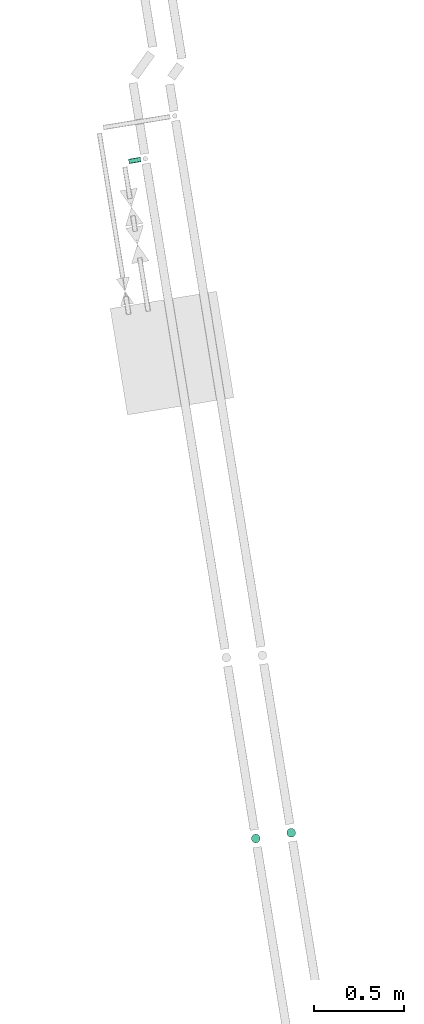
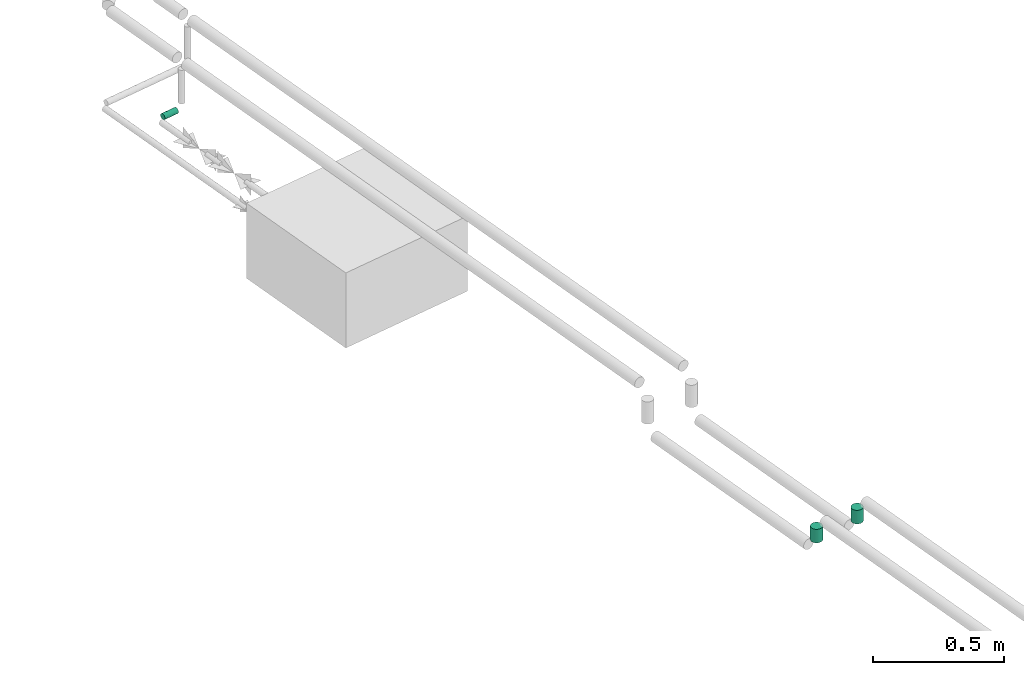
# One storey, part 7 of 10: 3 flow segments.
"""IFC2X3 building model written with IfcOpenShell, lengths in millimetres."""

from ifc_helpers import new_model, entity, si_unit, converted_unit, derived_unit, direction, frame, frame_2d, origin, origin_with_axes, origin_2d_with_axis, place, context, subcontext, project, spatial, circle, extrude, type_object, element, save


model = new_model("IFC2X3")

# Units and contexts
plan_context = context("Plan", 3, precision=1e-05, world=origin_with_axes())
model_context = context("Model", 3, precision=0.01, world=origin(), true_north=direction((6.12323399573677e-17, 1.0)))
body_context = subcontext(model_context, "Body", "Model", "MODEL_VIEW")
ifc_project = project(units=[converted_unit("PLANEANGLEUNIT", "DEGREE", entity("IfcPositiveLengthMeasure", 0.0174532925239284), si_unit("PLANEANGLEUNIT", "RADIAN"), dimensions=[0, 0, 0, 0, 0, 0, 0]), si_unit("AREAUNIT", "SQUARE_METRE"), si_unit("LENGTHUNIT", "METRE", prefix="MILLI"), si_unit("MASSUNIT", "GRAM", prefix="KILO"), si_unit("POWERUNIT", "WATT"), si_unit("PRESSUREUNIT", "PASCAL", prefix="KILO"), si_unit("FORCEUNIT", "NEWTON", prefix="KILO"), si_unit("ELECTRICVOLTAGEUNIT", "VOLT"), si_unit("ELECTRICCURRENTUNIT", "AMPERE"), si_unit("THERMODYNAMICTEMPERATUREUNIT", "DEGREE_CELSIUS"), si_unit("TIMEUNIT", "SECOND"), si_unit("VOLUMEUNIT", "CUBIC_METRE"), derived_unit("LINEARVELOCITYUNIT", [(si_unit("LENGTHUNIT", "METRE"), 1), (si_unit("TIMEUNIT", "SECOND"), -1)]), derived_unit("VOLUMETRICFLOWRATEUNIT", [(si_unit("VOLUMEUNIT", "CUBIC_METRE"), 1), (si_unit("TIMEUNIT", "SECOND"), -1)]), derived_unit("THERMALTRANSMITTANCEUNIT", [(si_unit("POWERUNIT", "WATT"), 1), (si_unit("THERMODYNAMICTEMPERATUREUNIT", "KELVIN"), -1), (si_unit("AREAUNIT", "SQUARE_METRE"), -1)]), derived_unit("SOUNDPRESSUREUNIT", [(si_unit("PRESSUREUNIT", "PASCAL"), 1)])], contexts=[model_context, plan_context])

# Site, building, storey
site_placement = place(None, frame((-0.00071070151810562, 0.00438415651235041, 0.0), z_axis=(0.0, 0.0, 1.0), x_axis=(-0.160236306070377, 0.987078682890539, 0.0)))
site = spatial("IfcSite", under=ifc_project, at=site_placement, Name="Default", CompositionType="ELEMENT")
building_placement = place(site_placement, origin_with_axes())
building = spatial("IfcBuilding", under=site, at=building_placement, CompositionType="ELEMENT")
storey_placement = place(building_placement, frame((0.0, 0.0, 58999.9999999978), z_axis=(0.0, 0.0, 1.0), x_axis=(1.0, 0.0, 0.0)))
storey = spatial("IfcBuildingStorey", under=building, at=storey_placement, Name="Nivå F", CompositionType="ELEMENT", Elevation=58999.9999999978)

# Flow segments
pipe_segment_type = type_object("IfcPipeSegmentType", Name="Pipe Types:Stålrør syrefast AISI 316", PredefinedType="NOTDEFINED")
flow_segment_1_placement = place(storey_placement, origin_with_axes())
element("IfcFlowSegment", 1, at=flow_segment_1_placement, inside=storey, type_object=pipe_segment_type, Name="Pipe Types:Stålrør syrefast AISI 316", ObjectType="Pipe Types:Stålrør syrefast AISI 316", context=body_context, shape_type="SweptSolid", body=[
    extrude(circle(Radius=13.3500004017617, at=origin_2d_with_axis()), frame((780822.953591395, -502757.654093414, 2600.0), z_axis=(0.0, 1.0, 0.0), x_axis=(-1.0, 0.0, 0.0)), (0.0, 0.0, 1.0), 66.3999999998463),
])
flow_segment_2_placement = place(storey_placement, origin_with_axes())
element("IfcFlowSegment", 2, at=flow_segment_2_placement, inside=storey, type_object=pipe_segment_type, Name="Pipe Types:Stålrør syrefast AISI 316", ObjectType="Pipe Types:Stålrør syrefast AISI 316", context=body_context, shape_type="SweptSolid", body=[
    extrude(circle(Radius=24.1499996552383, at=frame_2d((0.0, 6.93034962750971e-11), x_axis=(1.0, 0.0))), frame((776990.295694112, -502784.454093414, 2668.39999999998), z_axis=(0.0, 0.0, 1.0), x_axis=(-1.0, 0.0, 0.0)), (0.0, 0.0, 1.0), 63.200000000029),
])
flow_segment_3_placement = place(storey_placement, origin_with_axes())
element("IfcFlowSegment", 3, at=flow_segment_3_placement, inside=storey, type_object=pipe_segment_type, Name="Pipe Types:Stålrør syrefast AISI 316", ObjectType="Pipe Types:Stålrør syrefast AISI 316", context=body_context, shape_type="SweptSolid", body=[
    extrude(circle(Radius=24.1499996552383, at=origin_2d_with_axis()), frame((776990.295694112, -502984.454093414, 2668.40000000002), z_axis=(0.0, 0.0, 1.0), x_axis=(-1.0, 0.0, 0.0)), (0.0, 0.0, 1.0), 63.1999999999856),
])

save(model, "model.ifc")
